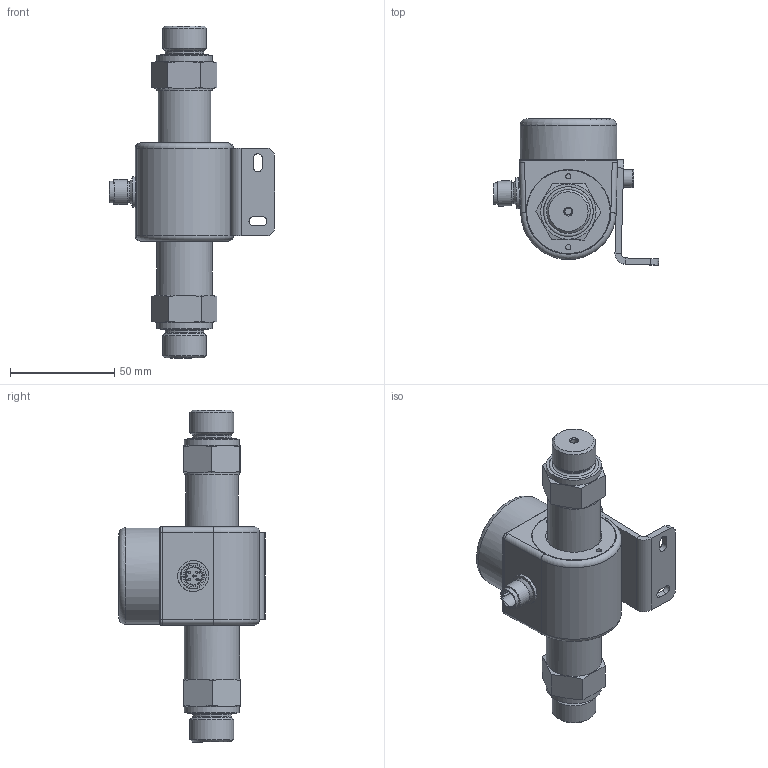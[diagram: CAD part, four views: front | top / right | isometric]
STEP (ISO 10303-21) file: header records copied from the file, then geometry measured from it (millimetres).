
FILE_DESCRIPTION(/* description */ (''),/* implementation_level */ '2;1');
FILE_NAME(/* name */ 'E:\Daten\BDS Inventor\3D-73.650.000.stp',/* time_stamp */ '2020-11-25T13:41:47+01:00',/* author */ ('de2015'),/* organization */ ('BD|SENSORS'),/* preprocessor_version */ 'ST-DEVELOPER v16.5',/* originating_system */ 'Autodesk Inventor 2017',/* authorisation */ '');
FILE_SCHEMA (('CONFIG_CONTROL_DESIGN'));
Length unit declared in the file: millimetre
Products named in the file (1): 3D-73.650.000
Bounding box: 79.19 x 70.11 x 159 mm (x, y, z)
Volume: 15980.8 mm3; surface area: 48204.8 mm2
Topology: 14 solids, 19 shells, 972 faces, 2448 edges, 1580 vertices
Faces by surface type: plane 500, cylinder 210, bspline 173, cone 42, torus 36, sphere 11
Full cylindrical faces by diameter (mm): 1 x5, 1.02 x5, 1.4 x5, 2 x2, 2.5 x4, 3.1 x2, 3.3 x2, 4 x6, 4.6 x1, 5 x4, 5.2 x2, 7.8 x2, 8.5 x2, 10.1 x1, 10.27 x1, 12 x1, 14.85 x1, 18.4 x2, 20.4 x4, 20.955 x2, 23.8 x4, 25.134 x2, 25.5 x1, 26.5 x4, 27 x2, 38 x1, 38.1 x1, 40 x2, 40.4 x2, 43 x1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
Entity records: 31458 total; most frequent: CARTESIAN_POINT 8954, ORIENTED_EDGE 4526, DIRECTION 3908, EDGE_CURVE 2258, VERTEX_POINT 1526, LINE 1316, VECTOR 1316, AXIS2_PLACEMENT_3D 1296
